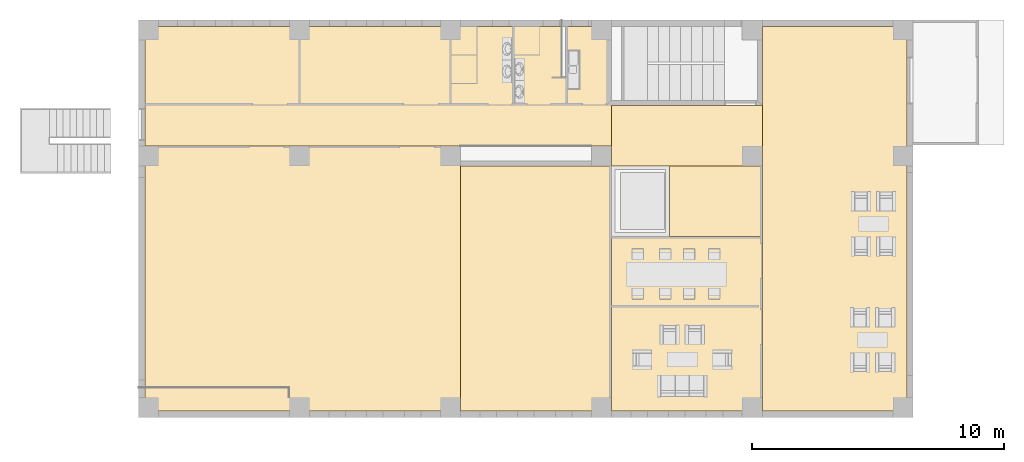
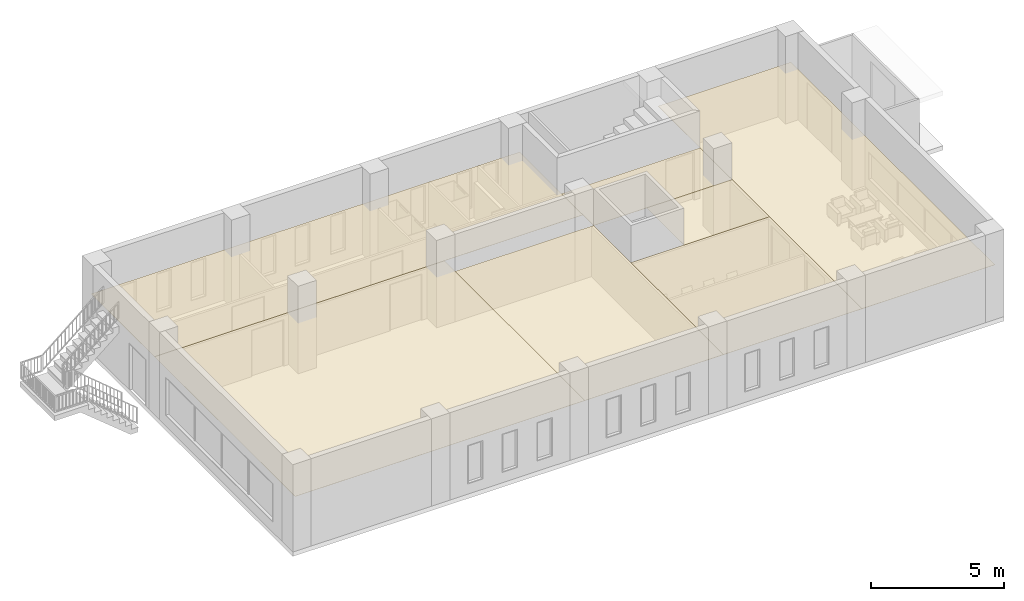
# One storey, part 9 of 17: 7 coverings.
"""IFC2X3 building model written with IfcOpenShell, lengths in millimetres."""

from ifc_helpers import new_model, entity, si_unit, converted_unit, direction, frame, origin_with_axes, place, context, project, spatial, polyline, outline, extrude, material, element, save


model = new_model("IFC2X3")

# Units and contexts
model_context = context("Model", 3, precision=1e-05, world=origin_with_axes(), true_north=direction((0.0, 1.0)))
ifc_project = project(units=[si_unit("LENGTHUNIT", "METRE", prefix="MILLI"), si_unit("AREAUNIT", "SQUARE_METRE"), si_unit("VOLUMEUNIT", "CUBIC_METRE"), converted_unit("PLANEANGLEUNIT", "DEGREE", entity("IfcPlaneAngleMeasure", 0.017453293), si_unit("PLANEANGLEUNIT", "RADIAN"), dimensions=[0, 0, 0, 0, 0, 0, 0]), si_unit("SOLIDANGLEUNIT", "STERADIAN"), si_unit("MASSUNIT", "GRAM"), si_unit("TIMEUNIT", "SECOND"), si_unit("THERMODYNAMICTEMPERATUREUNIT", "DEGREE_CELSIUS"), si_unit("LUMINOUSINTENSITYUNIT", "LUMEN")], contexts=[model_context])

# Site, building, storey
site_placement = place(None, origin_with_axes())
site = spatial("IfcSite", under=ifc_project, at=site_placement, Name="\x83T\x83C\x83g", CompositionType="ELEMENT")
building_placement = place(site_placement, origin_with_axes())
building = spatial("IfcBuilding", under=site, at=building_placement, Name="Daitec-Sample 201208", CompositionType="ELEMENT")
storey_placement = place(building_placement, origin_with_axes())
storey = spatial("IfcBuildingStorey", under=building, at=storey_placement, Name="1F", CompositionType="ELEMENT", Elevation=0.0)

# Coverings
ifc_material = material(Name="\x93V\x88ä1")
covering_1_placement = place(storey_placement, frame((6350.0, 23550.0, 2300.0), z_axis=(0.0, 0.0, 1.0), x_axis=(1.0, 0.0, 0.0)))
element("IfcCovering", 1, at=covering_1_placement, inside=storey, material=ifc_material, Name="S9", PredefinedType="CEILING", context=model_context, shape_type="SweptSolid", body=[
    extrude(outline(polyline([(0.0, 0.0), (0.0, -4750.0), (18550.0, -4750.0), (18550.0, 0.0), (0.0, 0.0)])), origin_with_axes(), (0.0, 0.0, 1.0), 10.0),
])
covering_2_placement = place(storey_placement, frame((6350.0, 18800.0, 2300.0), z_axis=(0.0, 0.0, 1.0), x_axis=(1.0, 0.0, 0.0)))
element("IfcCovering", 2, at=covering_2_placement, inside=storey, material=ifc_material, Name="S0", PredefinedType="CEILING", context=model_context, shape_type="SweptSolid", body=[
    extrude(outline(polyline([(0.0, 0.0), (0.0, -10550.0), (12550.0, -10550.0), (12550.0, 0.0), (0.0, 0.0)])), origin_with_axes(), (0.0, 0.0, 1.0), 10.0),
])
covering_3_placement = place(storey_placement, frame((18900.0, 8250.0, 2300.0), z_axis=(0.0, 0.0, 1.0), x_axis=(1.0, 0.0, 0.0)))
element("IfcCovering", 3, at=covering_3_placement, inside=storey, material=ifc_material, Name="S1", PredefinedType="CEILING", context=model_context, shape_type="SweptSolid", body=[
    extrude(outline(polyline([(0.0, 0.0), (6000.0, 0.0), (6000.0, 9750.0), (0.0, 9750.0), (0.0, 0.0)])), origin_with_axes(), (0.0, 0.0, 1.0), 10.0),
])
covering_4_placement = place(storey_placement, frame((24900.0, 8250.0, 2300.0), z_axis=(0.0, 0.0, 1.0), x_axis=(1.0, 0.0, 0.0)))
element("IfcCovering", 4, at=covering_4_placement, inside=storey, material=ifc_material, Name="S2", PredefinedType="CEILING", context=model_context, shape_type="SweptSolid", body=[
    extrude(outline(polyline([(0.0, 0.0), (6000.0, 0.0), (6000.0, 6950.0), (0.0, 6950.0), (0.0, 0.0)])), origin_with_axes(), (0.0, 0.0, 1.0), 10.0),
])
covering_5_placement = place(storey_placement, frame((24900.0, 18000.0, 2300.0), z_axis=(0.0, 0.0, 1.0), x_axis=(1.0, 0.0, 0.0)))
element("IfcCovering", 5, at=covering_5_placement, inside=storey, material=ifc_material, Name="S3", PredefinedType="CEILING", context=model_context, shape_type="SweptSolid", body=[
    extrude(outline(polyline([(0.0, 0.0), (6000.0, 0.0), (6000.0, 2399.9089), (0.0, 2399.9089), (0.0, 0.0)])), origin_with_axes(), (0.0, 0.0, 1.0), 10.0),
])
covering_6_placement = place(storey_placement, frame((30900.0, 18000.0, 2300.0), z_axis=(0.0, 0.0, 1.0), x_axis=(1.0, 0.0, 0.0)))
element("IfcCovering", 6, at=covering_6_placement, inside=storey, material=ifc_material, Name="S4", PredefinedType="CEILING", context=model_context, shape_type="SweptSolid", body=[
    extrude(outline(polyline([(0.0, 0.0), (-3700.0, 0.0), (-3700.0, -2800.0), (0.0, -2800.0), (0.0, 0.0)])), origin_with_axes(), (0.0, 0.0, 1.0), 10.0),
])
covering_7_placement = place(storey_placement, frame((30900.0, 23550.0, 2300.0), z_axis=(0.0, 0.0, 1.0), x_axis=(1.0, 0.0, 0.0)))
element("IfcCovering", 7, at=covering_7_placement, inside=storey, material=ifc_material, Name="S5", PredefinedType="CEILING", context=model_context, shape_type="SweptSolid", body=[
    extrude(outline(polyline([(0.0, 0.0), (0.0, -15300.0), (5750.0, -15300.0), (5750.0, 0.0), (0.0, 0.0)])), origin_with_axes(), (0.0, 0.0, 1.0), 10.0),
])

save(model, "model.ifc")
